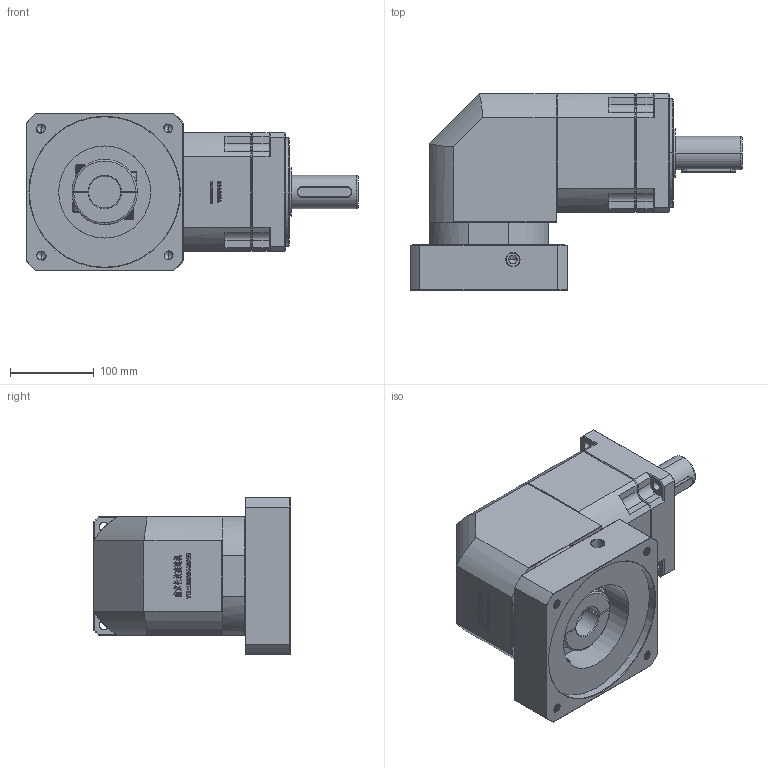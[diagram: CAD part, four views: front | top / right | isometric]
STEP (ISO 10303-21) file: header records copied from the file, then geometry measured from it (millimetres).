
FILE_DESCRIPTION (( 'STEP AP214' ), '1' );
FILE_NAME ('ZBR142A-D40-L2-38-180-215-M12.step', '2023-03-18T09:23:17', ( '' ), ( '' ), 'SwSTEP 2.0', 'SolidWorks 2016', '' );
FILE_SCHEMA (( 'AUTOMOTIVE_DESIGN' ));
Length unit declared in the file: millimetre
Products named in the file (1): ZBR142A-D40-L2-38-180-215-M12
Bounding box: 396.7 x 235 x 188 mm (x, y, z)
Volume: 6891984.4 mm3; surface area: 461217.5 mm2
Topology: 6 solids, 6 shells, 2892 faces, 7695 edges, 4952 vertices
Faces by surface type: plane 1540, bspline 592, cylinder 414, cone 324, torus 22
Entity records: 161887 total; most frequent: CARTESIAN_POINT 62785, ORIENTED_EDGE 15330, DIRECTION 11584, EDGE_CURVE 7665, VECTOR 5206, LINE 5206, VERTEX_POINT 4952, AXIS2_PLACEMENT_3D 3189
